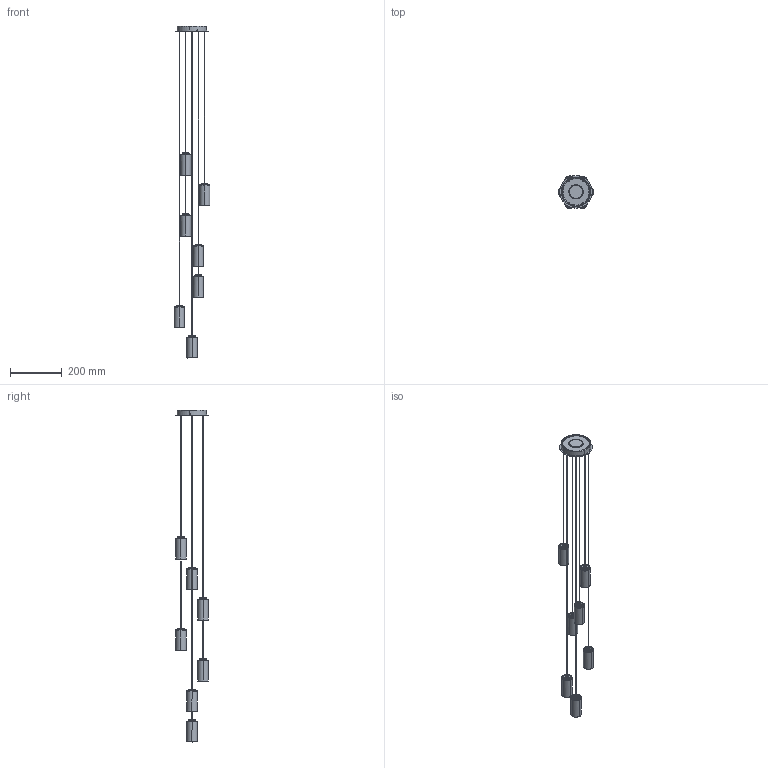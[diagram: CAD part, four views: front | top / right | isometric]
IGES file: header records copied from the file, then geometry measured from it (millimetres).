
Global section: file name: Cirio Cascada7 - aleatorio; native system: Unknown; preprocessor: BodyObjectToATFToIges; author: Autodesk 3ds Max; organization: Autodesk; date: 20180131.093247; units: centimetre
Bounding box: 138.19 x 125.98 x 1286.22 mm (x, y, z)
Volume: 124132.2 mm3; surface area: 253083.6 mm2
Topology: 1 solids, 1 shells, 2223 faces, 6055 edges, 4010 vertices
Faces by surface type: bspline 2223
